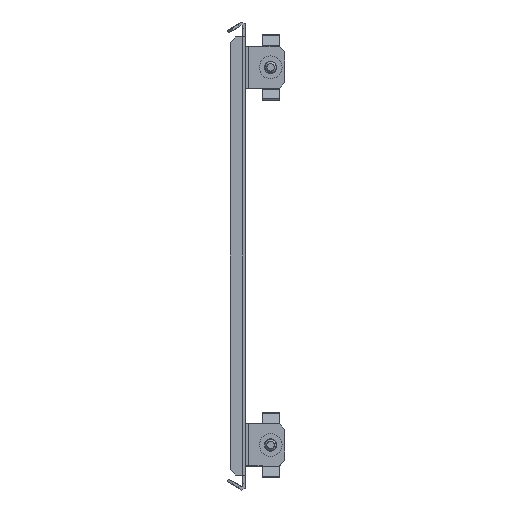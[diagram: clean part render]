
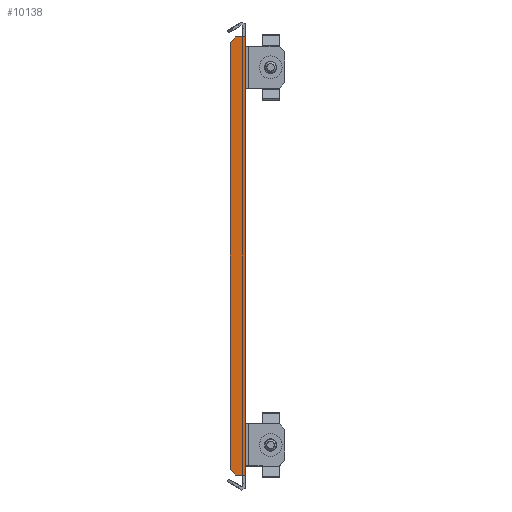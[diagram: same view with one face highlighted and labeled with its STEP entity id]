
A CAD part, front view. The second image highlights one B-rep face of the part: STEP entity #10138.
In plain terms, the highlighted planar face has unit normal (0, -1, 0).
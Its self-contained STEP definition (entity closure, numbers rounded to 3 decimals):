
#219 = CARTESIAN_POINT ( 'NONE',  ( -6.022, -354.011, 1.295 ) ) ;
#229 = CARTESIAN_POINT ( 'NONE',  ( -6.022, -354.011, 1.295 ) ) ;
#304 = DIRECTION ( 'NONE',  ( 0., 0., -1. ) ) ;
#511 = EDGE_CURVE ( 'NONE', #17978, #565, #6407, .T. ) ;
#565 = VERTEX_POINT ( 'NONE', #12394 ) ;
#817 = CARTESIAN_POINT ( 'NONE',  ( -6.022, -354.011, 1.295 ) ) ;
#835 = VECTOR ( 'NONE', #11004, 1000. ) ;
#1586 = CARTESIAN_POINT ( 'NONE',  ( -14.022, -354.011, 114.192 ) ) ;
#2495 = ORIENTED_EDGE ( 'NONE', *, *, #16666, .T. ) ;
#2713 = LINE ( 'NONE', #10602, #835 ) ;
#2756 = VERTEX_POINT ( 'NONE', #1586 ) ;
#2980 = CARTESIAN_POINT ( 'NONE',  ( -6.022, -354.011, -109.799 ) ) ;
#3021 = LINE ( 'NONE', #5581, #21113 ) ;
#3384 = LINE ( 'NONE', #15721, #16253 ) ;
#3575 = LINE ( 'NONE', #20065, #21203 ) ;
#4233 = CARTESIAN_POINT ( 'NONE',  ( -14.022, -354.011, 1.295 ) ) ;
#4318 = VERTEX_POINT ( 'NONE', #21582 ) ;
#4791 = EDGE_CURVE ( 'NONE', #14133, #24184, #3575, .T. ) ;
#4823 = FACE_OUTER_BOUND ( 'NONE', #25005, .T. ) ;
#4947 = ORIENTED_EDGE ( 'NONE', *, *, #9885, .T. ) ;
#5460 = LINE ( 'NONE', #23469, #6469 ) ;
#5581 = CARTESIAN_POINT ( 'NONE',  ( -66.471, -354.011, 61.744 ) ) ;
#6407 = LINE ( 'NONE', #8165, #8991 ) ;
#6469 = VECTOR ( 'NONE', #21589, 1000. ) ;
#6555 = LINE ( 'NONE', #4233, #13902 ) ;
#7065 = ORIENTED_EDGE ( 'NONE', *, *, #8796, .T. ) ;
#7179 = VERTEX_POINT ( 'NONE', #14224 ) ;
#7223 = VECTOR ( 'NONE', #17357, 1000. ) ;
#8165 = CARTESIAN_POINT ( 'NONE',  ( -6.022, -354.011, 1.295 ) ) ;
#8796 = EDGE_CURVE ( 'NONE', #24685, #14133, #3384, .T. ) ;
#8991 = VECTOR ( 'NONE', #26567, 1000. ) ;
#9740 = ORIENTED_EDGE ( 'NONE', *, *, #4791, .T. ) ;
#9885 = EDGE_CURVE ( 'NONE', #565, #7179, #21396, .T. ) ;
#10138 = ADVANCED_FACE ( 'NONE', ( #4823 ), #18774, .F. ) ;
#10557 = LINE ( 'NONE', #229, #13420 ) ;
#10602 = CARTESIAN_POINT ( 'NONE',  ( -6.022, -354.011, 1.295 ) ) ;
#11004 = DIRECTION ( 'NONE',  ( 0., 0., 1. ) ) ;
#11416 = DIRECTION ( 'NONE',  ( 0.707, 0., -0.707 ) ) ;
#11971 = ORIENTED_EDGE ( 'NONE', *, *, #22202, .T. ) ;
#12338 = ORIENTED_EDGE ( 'NONE', *, *, #19387, .T. ) ;
#12394 = CARTESIAN_POINT ( 'NONE',  ( -6.022, -354.011, 90.045 ) ) ;
#13420 = VECTOR ( 'NONE', #25276, 1000. ) ;
#13902 = VECTOR ( 'NONE', #304, 1000. ) ;
#14133 = VERTEX_POINT ( 'NONE', #23171 ) ;
#14157 = EDGE_CURVE ( 'NONE', #2756, #24685, #6555, .T. ) ;
#14221 = ORIENTED_EDGE ( 'NONE', *, *, #26016, .F. ) ;
#14224 = CARTESIAN_POINT ( 'NONE',  ( -6.022, -354.011, 112.39 ) ) ;
#15011 = CARTESIAN_POINT ( 'NONE',  ( -11.022, -354.011, 117.192 ) ) ;
#15027 = AXIS2_PLACEMENT_3D ( 'NONE', #219, #23367, #17293 ) ;
#15348 = CARTESIAN_POINT ( 'NONE',  ( -6.022, -354.011, -87.455 ) ) ;
#15721 = CARTESIAN_POINT ( 'NONE',  ( -66.471, -354.011, -59.153 ) ) ;
#16253 = VECTOR ( 'NONE', #11416, 1000. ) ;
#16666 = EDGE_CURVE ( 'NONE', #21624, #2756, #3021, .T. ) ;
#16978 = EDGE_CURVE ( 'NONE', #7179, #4318, #2713, .T. ) ;
#17293 = DIRECTION ( 'NONE',  ( 1., 0., 0. ) ) ;
#17357 = DIRECTION ( 'NONE',  ( 0., 0., 1. ) ) ;
#17689 = CARTESIAN_POINT ( 'NONE',  ( -6.022, -354.011, 1.295 ) ) ;
#17978 = VERTEX_POINT ( 'NONE', #15348 ) ;
#18425 = CARTESIAN_POINT ( 'NONE',  ( -14.022, -354.011, -111.602 ) ) ;
#18774 = PLANE ( 'NONE',  #15027 ) ;
#19387 = EDGE_CURVE ( 'NONE', #19633, #17978, #24026, .T. ) ;
#19633 = VERTEX_POINT ( 'NONE', #2980 ) ;
#20065 = CARTESIAN_POINT ( 'NONE',  ( -6.022, -354.011, -114.602 ) ) ;
#20069 = CARTESIAN_POINT ( 'NONE',  ( -6.022, -354.011, -114.602 ) ) ;
#20458 = VECTOR ( 'NONE', #25940, 1000. ) ;
#21113 = VECTOR ( 'NONE', #23592, 1000. ) ;
#21203 = VECTOR ( 'NONE', #24279, 1000. ) ;
#21396 = LINE ( 'NONE', #817, #7223 ) ;
#21582 = CARTESIAN_POINT ( 'NONE',  ( -6.022, -354.011, 117.192 ) ) ;
#21589 = DIRECTION ( 'NONE',  ( 1., 0., 0. ) ) ;
#21624 = VERTEX_POINT ( 'NONE', #15011 ) ;
#22202 = EDGE_CURVE ( 'NONE', #24184, #19633, #10557, .T. ) ;
#22675 = ORIENTED_EDGE ( 'NONE', *, *, #511, .T. ) ;
#22723 = ORIENTED_EDGE ( 'NONE', *, *, #14157, .T. ) ;
#23171 = CARTESIAN_POINT ( 'NONE',  ( -11.022, -354.011, -114.602 ) ) ;
#23367 = DIRECTION ( 'NONE',  ( 0., 1., 0. ) ) ;
#23469 = CARTESIAN_POINT ( 'NONE',  ( -6.022, -354.011, 117.192 ) ) ;
#23592 = DIRECTION ( 'NONE',  ( -0.707, 0., -0.707 ) ) ;
#24026 = LINE ( 'NONE', #17689, #20458 ) ;
#24184 = VERTEX_POINT ( 'NONE', #20069 ) ;
#24279 = DIRECTION ( 'NONE',  ( 1., 0., 0. ) ) ;
#24685 = VERTEX_POINT ( 'NONE', #18425 ) ;
#24994 = ORIENTED_EDGE ( 'NONE', *, *, #16978, .T. ) ;
#25005 = EDGE_LOOP ( 'NONE', ( #9740, #11971, #12338, #22675, #4947, #24994, #14221, #2495, #22723, #7065 ) ) ;
#25276 = DIRECTION ( 'NONE',  ( 0., 0., 1. ) ) ;
#25940 = DIRECTION ( 'NONE',  ( 0., 0., 1. ) ) ;
#26016 = EDGE_CURVE ( 'NONE', #21624, #4318, #5460, .T. ) ;
#26567 = DIRECTION ( 'NONE',  ( 0., 0., 1. ) ) ;
